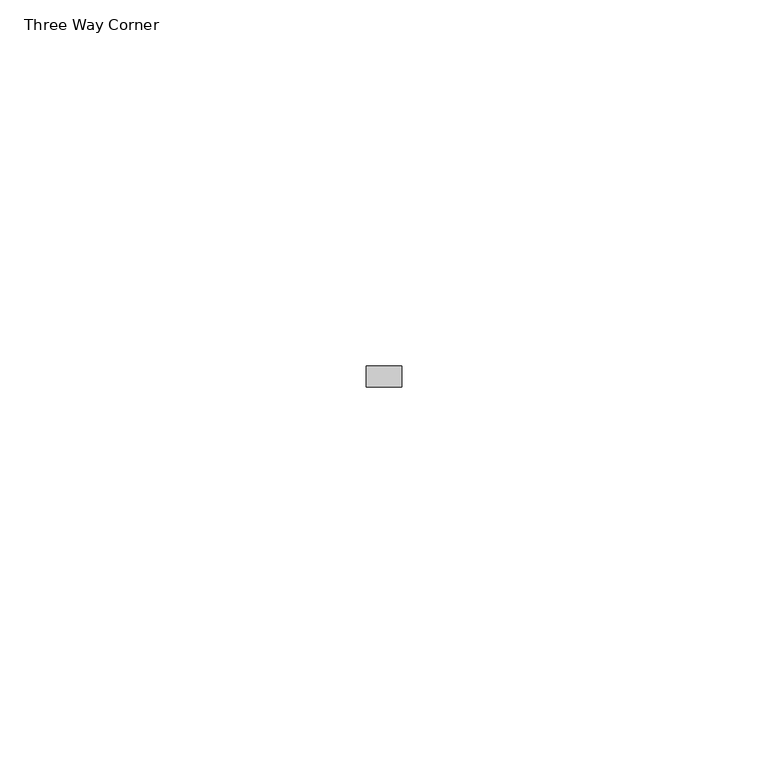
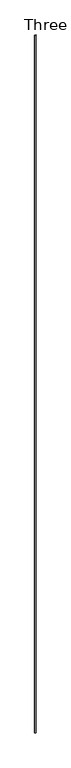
"""IFC4 building model written with IfcOpenShell, lengths in millimetres: proxy geometry, Connection-Corner-Teknion-OptosLP-Three_Way_FZCY3D : Three Way Corner."""

from ifc_helpers import new_model, si_unit, origin, origin_with_axes, place, context, project, spatial, polyline, outline, extrude, source, transform, mapped, element, save


def three_way_corner_c96b7194(model_context):
    return source(origin(), model_context, "Body", "SweptSolid", [
        extrude(outline(polyline([(-2.444766, 8.0010009), (2.444766, 8.0010009), (2.444766, 5.08), (-2.444766, 5.08), (-2.444766, 8.0010009)])), origin_with_axes(), (0.0, 0.0, 1.0), 3048.0),
    ])


if __name__ == "__main__":
    model = new_model("IFC4")
    model_context = context("Model", 3, world=origin())
    ifc_project = project(units=[si_unit("LENGTHUNIT", "METRE", prefix="MILLI")], contexts=[model_context])
    site = spatial("IfcSite", under=ifc_project)
    building = spatial("IfcBuilding", under=site)
    placement = place(None, origin())
    three_way_corner_shape = three_way_corner_c96b7194(model_context)
    element("IfcBuildingElementProxy", 1, Name="Connection-Corner-Teknion-OptosLP-Three_Way_FZCY3D : Three Way Corner", ObjectType="Connection-Corner-Teknion-OptosLP-Three_Way_FZCY3D : Three Way Corner", at=placement, inside=building, context=model_context, shape_type="MappedRepresentation", body=[
        mapped(three_way_corner_shape, transform((0.0, 0.0, 0.0), x_axis=(1.0, 0.0, 0.0), y_axis=(0.0, 1.0, 0.0), z_axis=(0.0, 0.0, 1.0))),
    ])
    save(model, "model.ifc")
